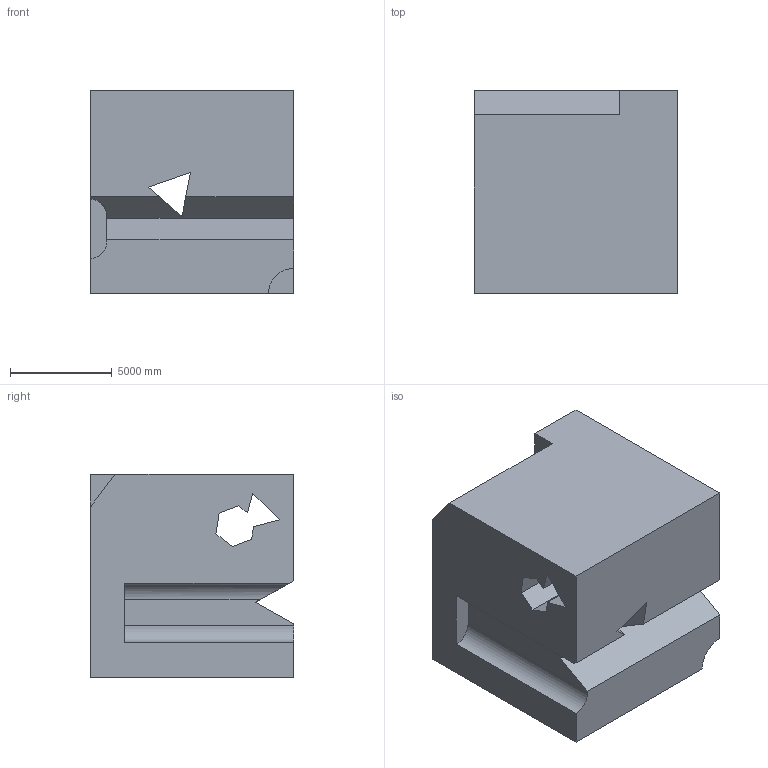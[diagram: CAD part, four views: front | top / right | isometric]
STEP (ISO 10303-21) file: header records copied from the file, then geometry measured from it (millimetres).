
FILE_DESCRIPTION (( 'STEP AP203' ), '1' );
FILE_NAME ('165.STEP', '2022-08-31T14:26:46', ( 'user' ), ( '' ), 'SwSTEP 2.0', 'SolidWorks 2021', '' );
FILE_SCHEMA (( 'CONFIG_CONTROL_DESIGN' ));
Length unit declared in the file: centimetre
Products named in the file (1): 165
Bounding box: 10000 x 10000 x 10000 mm (x, y, z)
Volume: 875999862407.5 mm3; surface area: 792105791.2 mm2
Topology: 1 solids, 1 shells, 40 faces, 117 edges, 78 vertices
Faces by surface type: plane 35, cylinder 5
Entity records: 1394 total; most frequent: CARTESIAN_POINT 245, ORIENTED_EDGE 234, DIRECTION 204, EDGE_CURVE 117, VECTOR 106, LINE 106, VERTEX_POINT 78, AXIS2_PLACEMENT_3D 49
